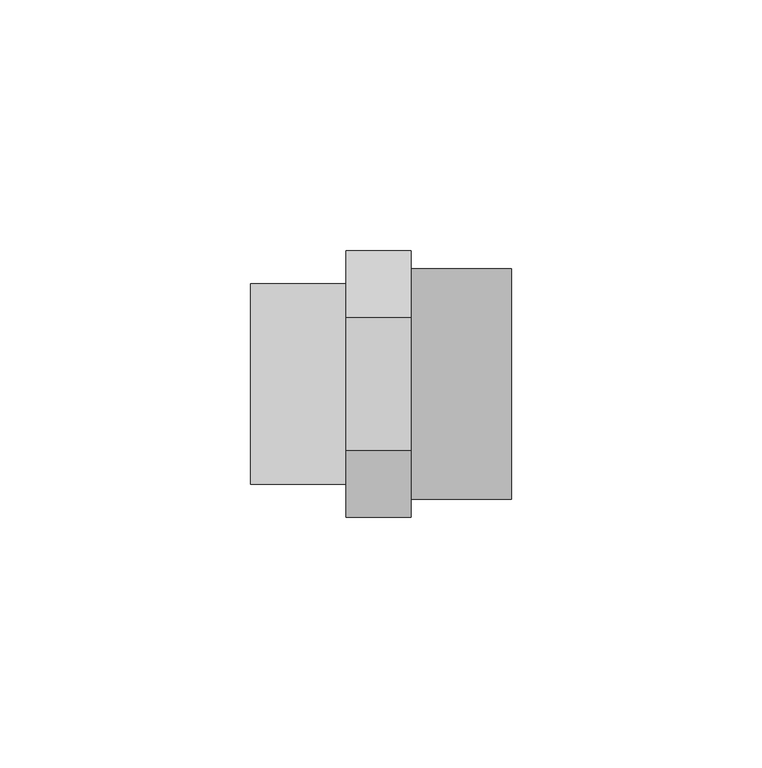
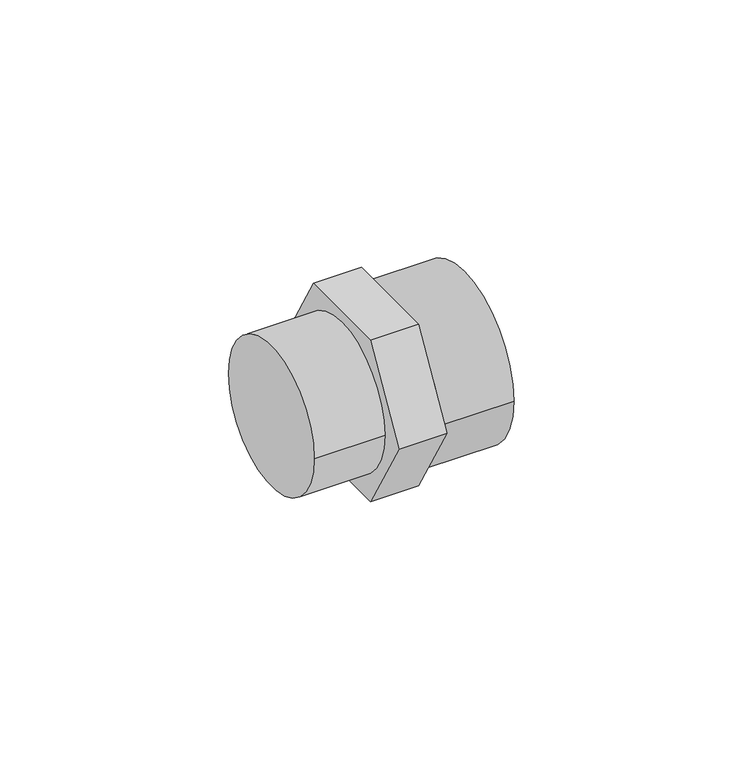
"""IFC4 building model written with IfcOpenShell, lengths in millimetres: pipe fitting geometry, 01011006 : Uniões de redução M/F."""

from ifc_helpers import new_model, si_unit, point, frame, origin, origin_2d, place, context, project, spatial, polyline, circle_curve, trimmed, segment, composite_curve, outline, extrude, source, transform, mapped, element, save


def pipe_fitting_a2311614(model_context):
    return source(origin(), model_context, "Body", "SweptSolid", [
        extrude(outline(composite_curve([segment(trimmed(circle_curve(origin_2d(), 20.0), [point((20.0, 0.0))], [point((-20.0, 0.0))], False, "CARTESIAN"), True, "CONTINUOUS"), segment(trimmed(circle_curve(origin_2d(), 20.0), [point((-20.0, 0.0))], [point((20.0, 0.0))], False, "CARTESIAN"), True, "CONTINUOUS")], self_intersect=False)), frame((0.0, 0.0, 0.0), z_axis=(1.0, 0.0, 0.0), x_axis=(0.0, 1.0, 0.0)), (0.0, 0.0, 1.0), 19.0),
        extrude(outline(polyline([(-13.2790562, 23.0), (13.2790562, 23.0), (26.5581124, 0.0), (13.2790562, -23.0), (-13.2790562, -23.0), (-26.5581124, 0.0), (-13.2790562, 23.0)])), frame((19.0, 0.0, 0.0), z_axis=(1.0, 0.0, 0.0), x_axis=(0.0, 1.0, 0.0)), (0.0, 0.0, 1.0), 13.0),
        extrude(outline(composite_curve([segment(trimmed(circle_curve(origin_2d(), 23.0), [point((-23.0, 0.0))], [point((23.0, 0.0))], False, "CARTESIAN"), True, "CONTINUOUS"), segment(trimmed(circle_curve(origin_2d(), 23.0), [point((23.0, 0.0))], [point((-23.0, 0.0))], False, "CARTESIAN"), True, "CONTINUOUS")], self_intersect=False)), frame((32.0, 0.0, 0.0), z_axis=(1.0, 0.0, 0.0), x_axis=(0.0, 1.0, 0.0)), (0.0, 0.0, 1.0), 20.0),
    ])


if __name__ == "__main__":
    model = new_model("IFC4")
    model_context = context("Model", 3, world=origin())
    ifc_project = project(units=[si_unit("LENGTHUNIT", "METRE", prefix="MILLI")], contexts=[model_context])
    site = spatial("IfcSite", under=ifc_project)
    building = spatial("IfcBuilding", under=site)
    placement = place(None, origin())
    pipe_fitting_shape = pipe_fitting_a2311614(model_context)
    element("IfcPipeFitting", 1, ObjectType="01011006 : Uniões de redução M/F", at=placement, inside=building, context=model_context, shape_type="MappedRepresentation", body=[
        mapped(pipe_fitting_shape, transform((0.0, 0.0, 0.0), x_axis=(1.0, 0.0, 0.0), y_axis=(0.0, 1.0, 0.0), z_axis=(0.0, 0.0, 1.0))),
    ])
    save(model, "model.ifc")
